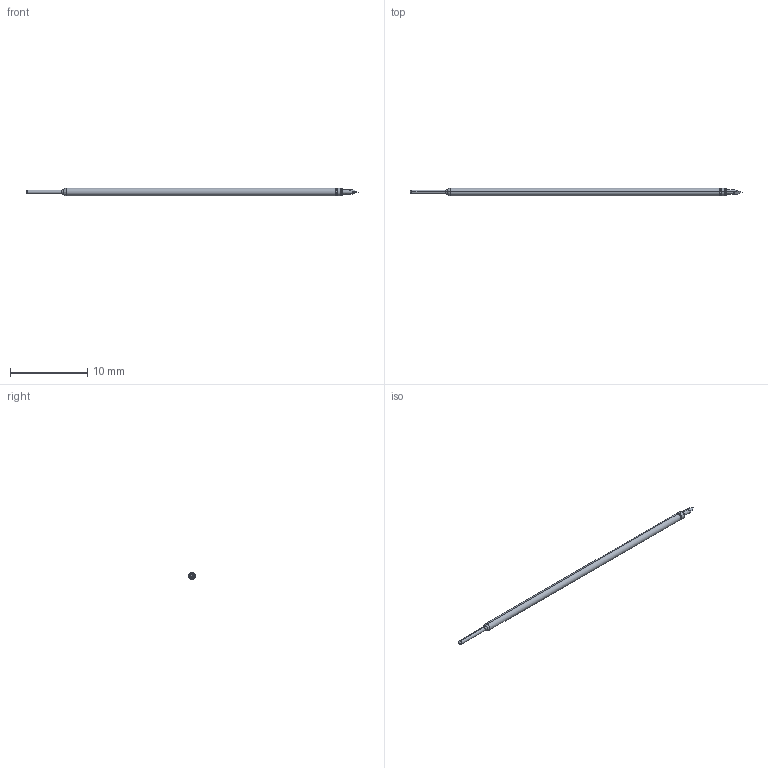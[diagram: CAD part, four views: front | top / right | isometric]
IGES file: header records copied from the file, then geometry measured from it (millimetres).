
Start section: SolidWorks IGES file using analytic representation for surfaces
Global section: file name: C:\Documents and Settings\mrumschlag\Desktop\changes\new\test\T24 FULL.IGS; native system: SolidWorks 2011; preprocessor: SolidWorks 2011; author: mrumschlag; date: 110630.163408; units: inch
Bounding box: 42.93 x 0.97 x 0.97 mm (x, y, z)
Surface area: 120.5 mm2 (no closed solid volume)
Topology: 0 solids, 0 shells, 26 faces, 166 edges, 164 vertices
Faces by surface type: revolution 14, bspline 12
